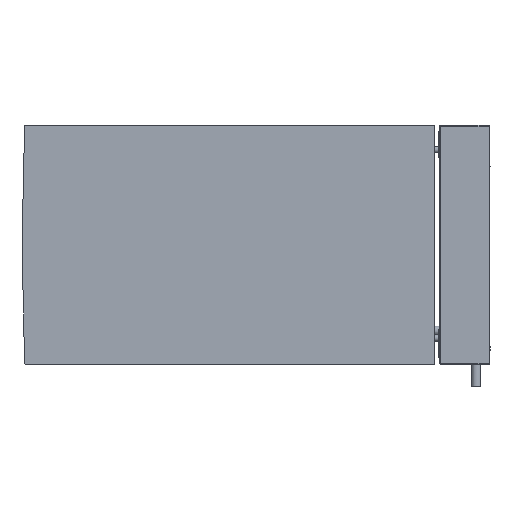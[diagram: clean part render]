
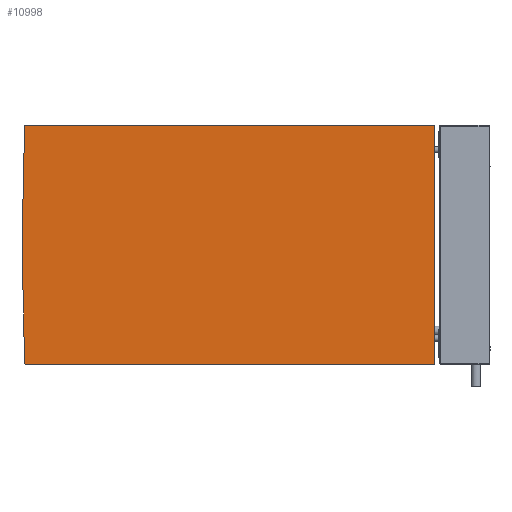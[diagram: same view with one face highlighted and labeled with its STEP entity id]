
A CAD part, left-side view. The second image highlights one B-rep face of the part: STEP entity #10998.
In plain terms, the highlighted planar face has unit normal (-1, 0, 0).
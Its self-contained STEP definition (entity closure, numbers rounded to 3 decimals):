
#371 = ORIENTED_EDGE ( 'NONE', *, *, #432, .F. ) ;
#432 = EDGE_CURVE ( 'NONE', #29345, #14093, #9414, .T. ) ;
#804 = CARTESIAN_POINT ( 'NONE',  ( -575., 1225., 354.642 ) ) ;
#1104 = VECTOR ( 'NONE', #35117, 1000. ) ;
#1163 = DIRECTION ( 'NONE',  ( 0., 0., 1. ) ) ;
#1266 = CIRCLE ( 'NONE', #15610, 2.9 ) ;
#3288 = CARTESIAN_POINT ( 'NONE',  ( -575., 2., -357.5 ) ) ;
#3539 = CARTESIAN_POINT ( 'NONE',  ( -575., 1222.101, 354.578 ) ) ;
#4059 = LINE ( 'NONE', #6744, #8343 ) ;
#4096 = EDGE_CURVE ( 'NONE', #5868, #28032, #31074, .T. ) ;
#4101 = ORIENTED_EDGE ( 'NONE', *, *, #9870, .F. ) ;
#5362 = CIRCLE ( 'NONE', #8803, 2. ) ;
#5384 = VERTEX_POINT ( 'NONE', #804 ) ;
#5462 = ORIENTED_EDGE ( 'NONE', *, *, #17384, .F. ) ;
#5551 = VECTOR ( 'NONE', #17353, 1000. ) ;
#5868 = VERTEX_POINT ( 'NONE', #8865 ) ;
#6744 = CARTESIAN_POINT ( 'NONE',  ( -575., 1222.101, -357.478 ) ) ;
#7311 = CARTESIAN_POINT ( 'NONE',  ( -575., 0., -355.5 ) ) ;
#7909 = ORIENTED_EDGE ( 'NONE', *, *, #24197, .F. ) ;
#8037 = CARTESIAN_POINT ( 'NONE',  ( -575., 1232.738, 0. ) ) ;
#8156 = EDGE_LOOP ( 'NONE', ( #371, #21147, #8410, #18421, #14956, #16700, #5462, #7909, #4101 ) ) ;
#8343 = VECTOR ( 'NONE', #9614, 1000. ) ;
#8410 = ORIENTED_EDGE ( 'NONE', *, *, #30992, .F. ) ;
#8425 = DIRECTION ( 'NONE',  ( 0., 0., 1. ) ) ;
#8803 = AXIS2_PLACEMENT_3D ( 'NONE', #22069, #33010, #8425 ) ;
#8865 = CARTESIAN_POINT ( 'NONE',  ( -575., 1222.101, -357.478 ) ) ;
#9414 = CIRCLE ( 'NONE', #13412, 2. ) ;
#9427 = VERTEX_POINT ( 'NONE', #31034 ) ;
#9546 = CARTESIAN_POINT ( 'NONE',  ( -575., 2., 357.5 ) ) ;
#9614 = DIRECTION ( 'NONE',  ( 0., 1., 0. ) ) ;
#9870 = EDGE_CURVE ( 'NONE', #14093, #9427, #10687, .T. ) ;
#9884 = DIRECTION ( 'NONE',  ( -1., 0., 0. ) ) ;
#10237 = CARTESIAN_POINT ( 'NONE',  ( -575., 1222.101, 357.478 ) ) ;
#10687 = LINE ( 'NONE', #7311, #1104 ) ;
#10998 = ADVANCED_FACE ( 'NONE', ( #12741 ), #14765, .T. ) ;
#12036 = CARTESIAN_POINT ( 'NONE',  ( -575., 0., 0. ) ) ;
#12741 = FACE_OUTER_BOUND ( 'NONE', #8156, .T. ) ;
#13412 = AXIS2_PLACEMENT_3D ( 'NONE', #34198, #14825, #1163 ) ;
#14093 = VERTEX_POINT ( 'NONE', #25569 ) ;
#14491 = DIRECTION ( 'NONE',  ( 1., 0., 0. ) ) ;
#14765 = PLANE ( 'NONE',  #29283 ) ;
#14825 = DIRECTION ( 'NONE',  ( 1., 0., 0. ) ) ;
#14956 = ORIENTED_EDGE ( 'NONE', *, *, #23004, .F. ) ;
#15070 = VERTEX_POINT ( 'NONE', #3288 ) ;
#15610 = AXIS2_PLACEMENT_3D ( 'NONE', #3539, #14491, #25408 ) ;
#16239 = LINE ( 'NONE', #28692, #28548 ) ;
#16327 = CARTESIAN_POINT ( 'NONE',  ( -575., 1222.101, -354.578 ) ) ;
#16700 = ORIENTED_EDGE ( 'NONE', *, *, #4096, .F. ) ;
#17353 = DIRECTION ( 'NONE',  ( 0., -0.022, 1. ) ) ;
#17384 = EDGE_CURVE ( 'NONE', #15070, #5868, #4059, .T. ) ;
#18421 = ORIENTED_EDGE ( 'NONE', *, *, #19349, .F. ) ;
#19328 = EDGE_CURVE ( 'NONE', #20746, #29345, #34977, .T. ) ;
#19349 = EDGE_CURVE ( 'NONE', #25253, #5384, #30281, .T. ) ;
#20746 = VERTEX_POINT ( 'NONE', #10237 ) ;
#21147 = ORIENTED_EDGE ( 'NONE', *, *, #19328, .F. ) ;
#21675 = CARTESIAN_POINT ( 'NONE',  ( -575., 1222.101, 357.478 ) ) ;
#21918 = AXIS2_PLACEMENT_3D ( 'NONE', #16327, #32996, #35007 ) ;
#22069 = CARTESIAN_POINT ( 'NONE',  ( -575., 2., -355.5 ) ) ;
#22999 = DIRECTION ( 'NONE',  ( 0., 0., 1. ) ) ;
#23004 = EDGE_CURVE ( 'NONE', #28032, #25253, #16239, .T. ) ;
#24020 = CARTESIAN_POINT ( 'NONE',  ( -575., 1225., -354.642 ) ) ;
#24106 = DIRECTION ( 'NONE',  ( 0., 0.022, 1. ) ) ;
#24197 = EDGE_CURVE ( 'NONE', #9427, #15070, #5362, .T. ) ;
#25253 = VERTEX_POINT ( 'NONE', #8037 ) ;
#25389 = CARTESIAN_POINT ( 'NONE',  ( -575., 1225., 354.642 ) ) ;
#25408 = DIRECTION ( 'NONE',  ( 0., 0., 1. ) ) ;
#25569 = CARTESIAN_POINT ( 'NONE',  ( -575., 0., 355.5 ) ) ;
#25596 = VECTOR ( 'NONE', #30111, 1000. ) ;
#28032 = VERTEX_POINT ( 'NONE', #24020 ) ;
#28548 = VECTOR ( 'NONE', #24106, 1000. ) ;
#28692 = CARTESIAN_POINT ( 'NONE',  ( -575., 1232.738, 0. ) ) ;
#29283 = AXIS2_PLACEMENT_3D ( 'NONE', #12036, #9884, #22999 ) ;
#29345 = VERTEX_POINT ( 'NONE', #9546 ) ;
#30111 = DIRECTION ( 'NONE',  ( 0., -1., 0. ) ) ;
#30281 = LINE ( 'NONE', #25389, #5551 ) ;
#30992 = EDGE_CURVE ( 'NONE', #5384, #20746, #1266, .T. ) ;
#31034 = CARTESIAN_POINT ( 'NONE',  ( -575., 0., -355.5 ) ) ;
#31074 = CIRCLE ( 'NONE', #21918, 2.9 ) ;
#32996 = DIRECTION ( 'NONE',  ( 1., 0., 0. ) ) ;
#33010 = DIRECTION ( 'NONE',  ( 1., 0., 0. ) ) ;
#34198 = CARTESIAN_POINT ( 'NONE',  ( -575., 2., 355.5 ) ) ;
#34977 = LINE ( 'NONE', #21675, #25596 ) ;
#35007 = DIRECTION ( 'NONE',  ( 0., 0., 1. ) ) ;
#35117 = DIRECTION ( 'NONE',  ( 0., 0., -1. ) ) ;
